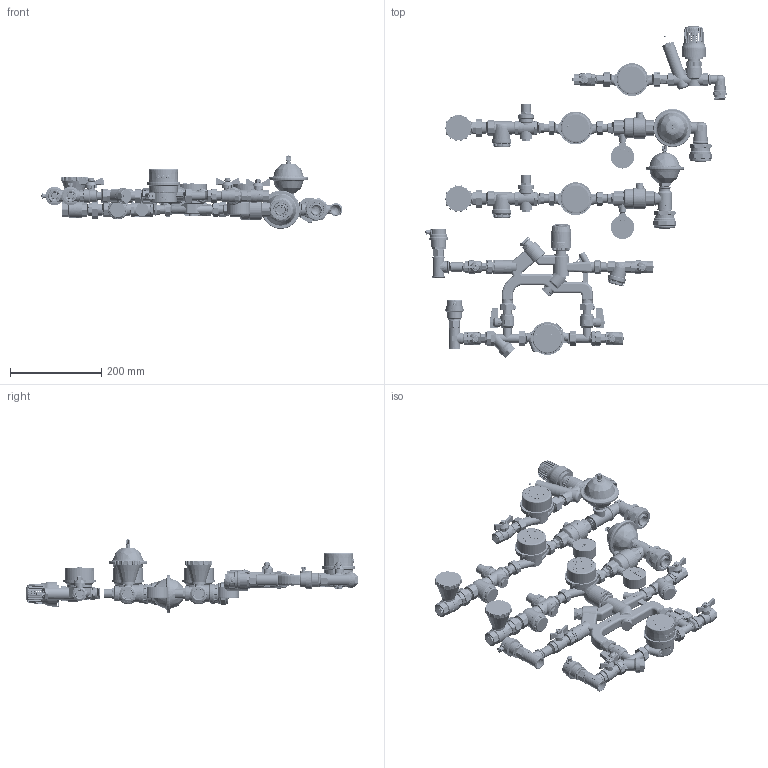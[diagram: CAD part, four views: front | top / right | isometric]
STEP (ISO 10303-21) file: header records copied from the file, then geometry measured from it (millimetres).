
FILE_DESCRIPTION(/* description */ (''),/* implementation_level */ '2;1');
FILE_NAME(/* name */ 'C:\Users\almis\Downloads\VT.NM.GFR.05.06.stp',/* time_stamp */ '2020-04-07T11:16:20+03:00',/* author */ ('BeN_GaN'),/* organization */ (''),/* preprocessor_version */ 'ST-DEVELOPER v18',/* originating_system */ 'Autodesk Inventor 2020',/* authorisation */ '');
FILE_SCHEMA (('AUTOMOTIVE_DESIGN { 1 0 10303 214 3 1 1 }'));
Products named in the file (39): VT.NM.F; Сборка0; Деталь1; Деталь2; Деталь3; Деталь4; Деталь5; VT.241.N.0405; VT.241.N.0405_02; VTr.613.04; VT.386.N.04; VT.215_ ВН_1%2; VTr.652.N.0406; Труба_025; VTr.132.N.0004; VT.539.N; VT.502.NH.04_1; VT.TE3041; Деталь6; VT.TM50.D_04; VT.CAR19.I; VT.214_ВВ_3%4; VTr.728.N.0005; VT.387.N.05; VT.086.N.05; VT.171.N.05; VTr.613.N.0505; VTr.132.RN.050504; VTr.651.N.0005; VTr.750.N.0504; VTr.092.N.0004; VTm.301.N.002605; VT.214_ВВ_1%2; VTr.611.N.0004; VT.348.N.04; VTr.092.N.0002; VTr.580.NE.040E; Деталь3_1; VHM-T-15_
Assembly tree (60 placements, depth 3):
  VT.NM.F
    Сборка0
      Деталь1
      Деталь2
      Деталь3
      Деталь4  x2
      Деталь5  x2
    VT.241.N.0405  x3
    VT.241.N.0405_02  x3
    VTr.613.04
    VT.386.N.04
    VT.215_ ВН_1%2
    VTr.652.N.0406
    Труба_025
    VT.539.N  x2
    VT.502.NH.04_1  x2
    VTr.132.N.0004
    VT.TE3041
    Деталь6
    Деталь3_1  x3
    VT.TM50.D_04  x2
    VT.CAR19.I  x2
    VT.214_ВВ_3%4  x2
    VTr.728.N.0005  x2
    VT.387.N.05  x2
    VT.086.N.05  x2
    VT.171.N.05  x2
    VTr.613.N.0505  x4
    VTr.132.RN.050504
    VTr.651.N.0005
    VTr.750.N.0504
    VTr.092.N.0004
    VTm.301.N.002605  x2
    VT.214_ВВ_1%2
    VTr.611.N.0004  x2
    VT.348.N.04
    VTr.092.N.0002
    VTr.580.NE.040E
    VHM-T-15_
Bounding box: 660 x 727.65 x 161.49 mm (x, y, z)
Volume: 2615397.4 mm3; surface area: 1157034.6 mm2
Topology: 84 solids, 121 shells, 32034 faces, 84602 edges, 54604 vertices
Faces by surface type: plane 13256, bspline 8772, cylinder 7206, torus 1344, cone 1273, sphere 183
Full cylindrical faces by diameter (mm): 0.5 x12, 1 x5, 1.5 x2, 1.99 x1, 2 x18, 2.1 x3, 2.3 x2, 2.5 x3, 2.8 x8, 3 x6, 3.2 x1, 3.464 x2, 3.5 x2, 4 x12, 4.05 x2, 4.1 x1, 4.5 x45, 4.9 x2, 4.99 x1, 5 x10, 5.5 x55, 5.6 x3, 5.774 x1, 6 x6, 6.5 x72, 6.534 x3, 6.6 x4, 6.7 x4, 6.8 x1, 7 x2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
Entity records: 881246 total; most frequent: CARTESIAN_POINT 430552, ORIENTED_EDGE 103102, DIRECTION 78116, EDGE_CURVE 51551, VERTEX_POINT 33440, AXIS2_PLACEMENT_3D 26933, LINE 24250, VECTOR 24250
